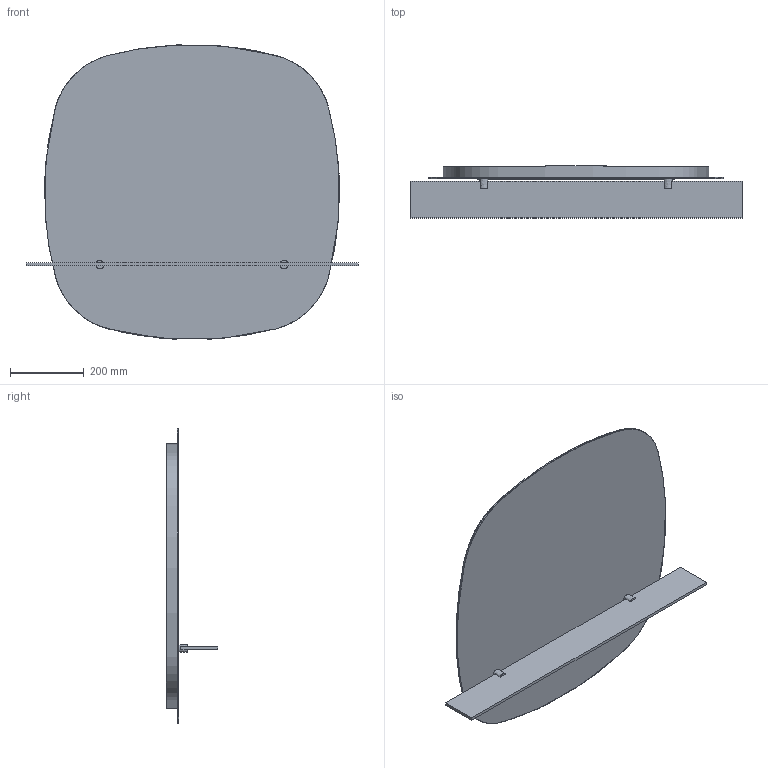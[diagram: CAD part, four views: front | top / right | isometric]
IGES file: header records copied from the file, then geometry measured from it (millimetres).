
Global section: file name: \\Archi-NAS\Comune\X GIOVANNI\SPECCHI\MIRR SHELF\MIRR SHELF_ROUND.igs; native system: Rhinoceros ( Feb 23 2021 ); preprocessor: Trout Lake IGES 012 Feb 23 2021; date: 230608.080510; units: millimetre
Bounding box: 900 x 140 x 797.41 mm (x, y, z)
Surface area: 2318842.6 mm2 (no closed solid volume)
Topology: 0 solids, 0 shells, 26 faces, 734 edges, 730 vertices
Faces by surface type: bspline 26
